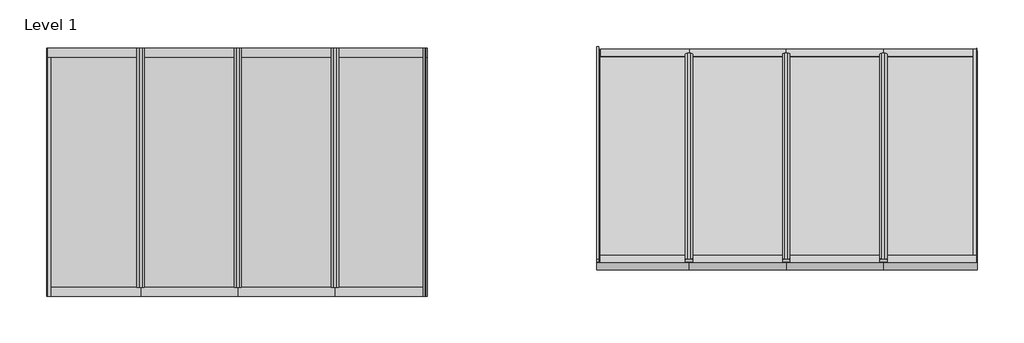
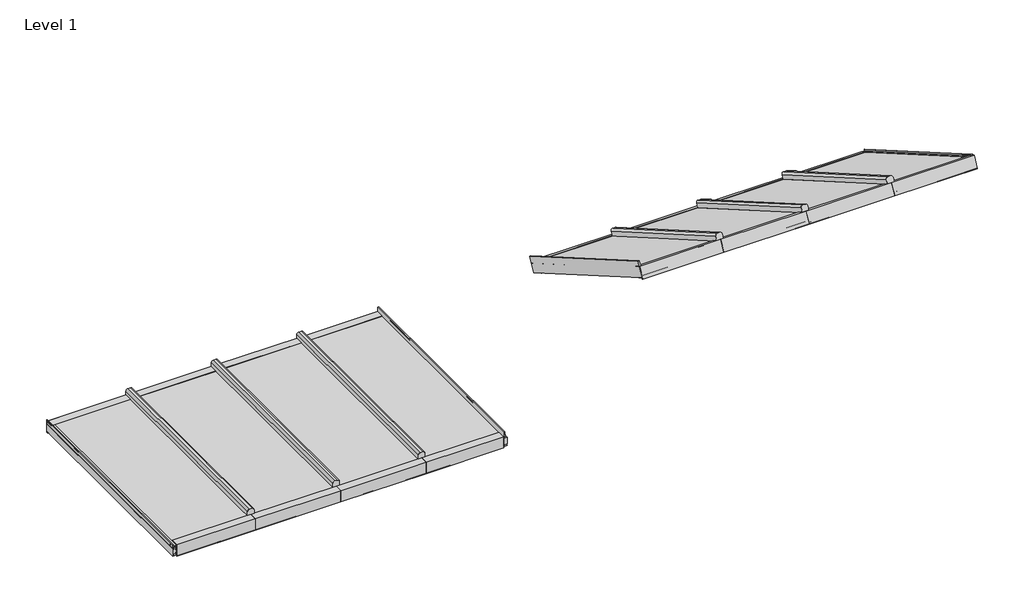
# One storey: 26 members, 8 plates.
"""IFC4 building model written with IfcOpenShell, lengths in millimetres."""

from ifc_helpers import new_model, si_unit, origin, place, context, project, spatial, transform, mapped, element, save
from components import rectangular_mullion_2bbd7e5c, rectangular_mullion_358f1fe0, rectangular_mullion_b9b8ca7e, rectangular_mullion_ce052a9a, rectangular_mullion_2972fc2d, rectangular_mullion_230216f2, rectangular_mullion_b2fdbea4, rectangular_mullion_9941ef16, rectangular_mullion_ced645ad, rectangular_mullion_c4324c7f, rectangular_mullion_f2670d49, rectangular_mullion_6f763872, rectangular_mullion_e9ba2ae8, rectangular_mullion_2c3513e9, plate_3ec01e9a, plate_dcd34a48, plate_85ba1ede

model = new_model("IFC4")

# Units and contexts
model_context = context("Model", 3, world=origin())
ifc_project = project(units=[si_unit("LENGTHUNIT", "METRE", prefix="MILLI")], contexts=[model_context])

# Site, building, storey
site = spatial("IfcSite", under=ifc_project)
building = spatial("IfcBuilding", under=site)
storey = spatial("IfcBuildingStorey", under=building, Name="Level 1", Elevation=4000.0)

# Members
placement = place(None, origin())
rectangular_mullion_shape = rectangular_mullion_2bbd7e5c(model_context)
element("IfcMember", 1, ObjectType="Rectangular Mullion : Danpal Top Mullion", at=placement, inside=storey, context=model_context, shape_type="MappedRepresentation", body=[
    mapped(rectangular_mullion_shape, transform((-8149.2365722, 1451.8561724, 4000.0), x_axis=(0.0, -1.0, 0.0), y_axis=(0.0, 0.0, -1.0), z_axis=(1.0, 0.0, 0.0))),
])
rectangular_mullion_2_shape = rectangular_mullion_358f1fe0(model_context)
element("IfcMember", 2, ObjectType="Rectangular Mullion : Danpal Top Mullion", at=placement, inside=storey, context=model_context, shape_type="MappedRepresentation", body=[
    mapped(rectangular_mullion_2_shape, transform((-7549.2365722, 1451.8561724, 4000.0), x_axis=(0.0, -1.0, 0.0), y_axis=(0.0, 0.0, -1.0), z_axis=(1.0, 0.0, 0.0))),
])
element("IfcMember", 3, ObjectType="Rectangular Mullion : Danpal Top Mullion", at=placement, inside=storey, context=model_context, shape_type="MappedRepresentation", body=[
    mapped(rectangular_mullion_2_shape, transform((-6949.2365722, 1451.8561724, 4000.0), x_axis=(0.0, -1.0, 0.0), y_axis=(0.0, 0.0, -1.0), z_axis=(1.0, 0.0, 0.0))),
])
rectangular_mullion_3_shape = rectangular_mullion_b9b8ca7e(model_context)
element("IfcMember", 4, ObjectType="Rectangular Mullion : Danpal Middle Mullion", at=placement, inside=storey, context=model_context, shape_type="MappedRepresentation", body=[
    mapped(rectangular_mullion_3_shape, transform((-8149.2365722, 2985.1834882, 4000.0), x_axis=(1.0, 0.0, 0.0), y_axis=(0.0, 0.0, -1.0), z_axis=(0.0, 1.0, 0.0))),
])
element("IfcMember", 5, ObjectType="Rectangular Mullion : Danpal Middle Mullion", at=placement, inside=storey, context=model_context, shape_type="MappedRepresentation", body=[
    mapped(rectangular_mullion_3_shape, transform((-7549.2365722, 2985.1834882, 4000.0), x_axis=(1.0, 0.0, 0.0), y_axis=(0.0, 0.0, -1.0), z_axis=(0.0, 1.0, 0.0))),
])
element("IfcMember", 6, ObjectType="Rectangular Mullion : Danpal Middle Mullion", at=placement, inside=storey, context=model_context, shape_type="MappedRepresentation", body=[
    mapped(rectangular_mullion_3_shape, transform((-6949.2365722, 2985.1834882, 4000.0), x_axis=(1.0, 0.0, 0.0), y_axis=(0.0, 0.0, -1.0), z_axis=(0.0, 1.0, 0.0))),
])
rectangular_mullion_4_shape = rectangular_mullion_ce052a9a(model_context)
element("IfcMember", 7, ObjectType="Rectangular Mullion : Danpal Bottom Mullion", at=placement, inside=storey, context=model_context, shape_type="MappedRepresentation", body=[
    mapped(rectangular_mullion_4_shape, transform((-8730.2619045, 2985.4561724, 4000.0), x_axis=(0.0, 1.0, 0.0), y_axis=(0.0, 0.0, -1.0), z_axis=(-1.0, 0.0, 0.0))),
])
element("IfcMember", 8, ObjectType="Rectangular Mullion : Danpal Bottom Mullion", at=placement, inside=storey, context=model_context, shape_type="MappedRepresentation", body=[
    mapped(rectangular_mullion_4_shape, transform((-2980.2619045, 1661.8561724, 4764.1808163), x_axis=(0.0, -0.8660254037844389, 0.4999999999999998), y_axis=(0.0, -0.4999999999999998, -0.8660254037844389), z_axis=(1.0, 0.0, 0.0))),
])
rectangular_mullion_5_shape = rectangular_mullion_2972fc2d(model_context)
element("IfcMember", 9, ObjectType="Rectangular Mullion : Danpal Rigth Mullion", at=placement, inside=storey, context=model_context, shape_type="MappedRepresentation", body=[
    mapped(rectangular_mullion_5_shape, transform((-8730.2619045, 1451.8561724, 4000.0), x_axis=(-1.0, 0.0, 0.0), y_axis=(0.0, 0.0, -1.0), z_axis=(0.0, -1.0, 0.0))),
])
element("IfcMember", 10, ObjectType="Rectangular Mullion : Danpal Bottom Mullion", at=placement, inside=storey, context=model_context, shape_type="MappedRepresentation", body=[
    mapped(rectangular_mullion_2_shape, transform((-8149.2365722, 2985.4561724, 4000.0), x_axis=(0.0, 1.0, 0.0), y_axis=(0.0, 0.0, -1.0), z_axis=(-1.0, 0.0, 0.0))),
])
element("IfcMember", 11, ObjectType="Rectangular Mullion : Danpal Bottom Mullion", at=placement, inside=storey, context=model_context, shape_type="MappedRepresentation", body=[
    mapped(rectangular_mullion_2_shape, transform((-7549.2365722, 2985.4561724, 4000.0), x_axis=(0.0, 1.0, 0.0), y_axis=(0.0, 0.0, -1.0), z_axis=(-1.0, 0.0, 0.0))),
])
element("IfcMember", 12, ObjectType="Rectangular Mullion : Danpal Bottom Mullion", at=placement, inside=storey, context=model_context, shape_type="MappedRepresentation", body=[
    mapped(rectangular_mullion_2_shape, transform((-3561.2872368, 1661.8561724, 4764.1808163), x_axis=(0.0, -0.8660254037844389, 0.4999999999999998), y_axis=(0.0, -0.4999999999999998, -0.8660254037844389), z_axis=(1.0, 0.0, 0.0))),
])
element("IfcMember", 13, ObjectType="Rectangular Mullion : Danpal Bottom Mullion", at=placement, inside=storey, context=model_context, shape_type="MappedRepresentation", body=[
    mapped(rectangular_mullion_2_shape, transform((-4161.2872368, 1661.8561724, 4764.1808163), x_axis=(0.0, -0.8660254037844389, 0.4999999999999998), y_axis=(0.0, -0.4999999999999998, -0.8660254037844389), z_axis=(1.0, 0.0, 0.0))),
])
rectangular_mullion_6_shape = rectangular_mullion_230216f2(model_context)
element("IfcMember", 14, ObjectType="Rectangular Mullion : Danpal Bottom Mullion", at=placement, inside=storey, context=model_context, shape_type="MappedRepresentation", body=[
    mapped(rectangular_mullion_6_shape, transform((-6949.2365722, 2985.4561724, 4000.0), x_axis=(0.0, 1.0, 0.0), y_axis=(0.0, 0.0, -1.0), z_axis=(-1.0, 0.0, 0.0))),
])
element("IfcMember", 15, ObjectType="Rectangular Mullion : Danpal Bottom Mullion", at=placement, inside=storey, context=model_context, shape_type="MappedRepresentation", body=[
    mapped(rectangular_mullion_6_shape, transform((-4761.2872368, 1661.8561724, 4764.1808163), x_axis=(0.0, -0.8660254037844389, 0.4999999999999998), y_axis=(0.0, -0.4999999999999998, -0.8660254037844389), z_axis=(1.0, 0.0, 0.0))),
])
rectangular_mullion_7_shape = rectangular_mullion_b2fdbea4(model_context)
element("IfcMember", 16, ObjectType="Rectangular Mullion : Danpal Left Mullion", at=placement, inside=storey, context=model_context, shape_type="MappedRepresentation", body=[
    mapped(rectangular_mullion_7_shape, transform((-6380.2619045, 2985.1834882, 4000.0), x_axis=(1.0, 0.0, 0.0), y_axis=(0.0, 0.0, -1.0), z_axis=(0.0, 1.0, 0.0))),
])
rectangular_mullion_8_shape = rectangular_mullion_9941ef16(model_context)
element("IfcMember", 17, ObjectType="Rectangular Mullion : Danpal Top Mullion", at=placement, inside=storey, context=model_context, shape_type="MappedRepresentation", body=[
    mapped(rectangular_mullion_8_shape, transform((-6404.2857453, 1451.8561724, 4000.0), x_axis=(0.0, -1.0, 0.0), y_axis=(0.0, 0.0, -1.0), z_axis=(1.0, 0.0, 0.0))),
])
rectangular_mullion_9_shape = rectangular_mullion_ced645ad(model_context)
element("IfcMember", 18, ObjectType="Rectangular Mullion : Danpal Top Mullion", at=placement, inside=storey, context=model_context, shape_type="MappedRepresentation", body=[
    mapped(rectangular_mullion_9_shape, transform((-5306.2380638, 2985.4561724, 4000.0), x_axis=(0.0, 0.8660254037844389, -0.4999999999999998), y_axis=(0.0, -0.4999999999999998, -0.8660254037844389), z_axis=(-1.0, 0.0, 0.0))),
])
rectangular_mullion_10_shape = rectangular_mullion_c4324c7f(model_context)
element("IfcMember", 19, ObjectType="Rectangular Mullion : Danpal Top Mullion", at=placement, inside=storey, context=model_context, shape_type="MappedRepresentation", body=[
    mapped(rectangular_mullion_10_shape, transform((-3561.2872368, 2985.4561724, 4000.0), x_axis=(0.0, 0.8660254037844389, -0.4999999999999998), y_axis=(0.0, -0.4999999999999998, -0.8660254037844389), z_axis=(-1.0, 0.0, 0.0))),
])
rectangular_mullion_11_shape = rectangular_mullion_f2670d49(model_context)
element("IfcMember", 20, ObjectType="Rectangular Mullion : Danpal Top Mullion", at=placement, inside=storey, context=model_context, shape_type="MappedRepresentation", body=[
    mapped(rectangular_mullion_11_shape, transform((-4161.2872368, 2985.4561724, 4000.0), x_axis=(0.0, 0.8660254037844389, -0.4999999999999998), y_axis=(0.0, -0.4999999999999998, -0.8660254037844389), z_axis=(-1.0, 0.0, 0.0))),
])
element("IfcMember", 21, ObjectType="Rectangular Mullion : Danpal Top Mullion", at=placement, inside=storey, context=model_context, shape_type="MappedRepresentation", body=[
    mapped(rectangular_mullion_11_shape, transform((-4761.2872368, 2985.4561724, 4000.0), x_axis=(0.0, 0.8660254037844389, -0.4999999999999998), y_axis=(0.0, -0.4999999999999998, -0.8660254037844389), z_axis=(-1.0, 0.0, 0.0))),
])
rectangular_mullion_12_shape = rectangular_mullion_6f763872(model_context)
element("IfcMember", 22, ObjectType="Rectangular Mullion : Danpal Middle Mullion", at=placement, inside=storey, context=model_context, shape_type="MappedRepresentation", body=[
    mapped(rectangular_mullion_12_shape, transform((-3561.2872368, 1667.7748506, 4760.7636658), x_axis=(-1.0, 0.0, 0.0), y_axis=(0.0, -0.4999999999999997, -0.8660254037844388), z_axis=(0.0, -0.8660254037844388, 0.4999999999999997))),
])
element("IfcMember", 23, ObjectType="Rectangular Mullion : Danpal Middle Mullion", at=placement, inside=storey, context=model_context, shape_type="MappedRepresentation", body=[
    mapped(rectangular_mullion_12_shape, transform((-4161.2872368, 1667.7748506, 4760.7636658), x_axis=(-1.0, 0.0, 0.0), y_axis=(0.0, -0.4999999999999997, -0.8660254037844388), z_axis=(0.0, -0.8660254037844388, 0.4999999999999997))),
])
element("IfcMember", 24, ObjectType="Rectangular Mullion : Danpal Middle Mullion", at=placement, inside=storey, context=model_context, shape_type="MappedRepresentation", body=[
    mapped(rectangular_mullion_12_shape, transform((-4761.2872368, 1667.7748506, 4760.7636658), x_axis=(-1.0, 0.0, 0.0), y_axis=(0.0, -0.4999999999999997, -0.8660254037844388), z_axis=(0.0, -0.8660254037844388, 0.4999999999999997))),
])
rectangular_mullion_13_shape = rectangular_mullion_e9ba2ae8(model_context)
element("IfcMember", 25, ObjectType="Rectangular Mullion : Danpal Rigth Mullion", at=placement, inside=storey, context=model_context, shape_type="MappedRepresentation", body=[
    mapped(rectangular_mullion_13_shape, transform((-2980.2619045, 2985.4561724, 4000.0), x_axis=(1.0, 0.0, 0.0), y_axis=(0.0, -0.49999999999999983, -0.8660254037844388), z_axis=(0.0, 0.8660254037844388, -0.49999999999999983))),
])
rectangular_mullion_14_shape = rectangular_mullion_2c3513e9(model_context)
element("IfcMember", 26, ObjectType="Rectangular Mullion : Danpal Left Mullion", at=placement, inside=storey, context=model_context, shape_type="MappedRepresentation", body=[
    mapped(rectangular_mullion_14_shape, transform((-5330.2619045, 1667.7748506, 4760.7636658), x_axis=(-1.0, 0.0, 0.0), y_axis=(0.0, -0.4999999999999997, -0.8660254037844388), z_axis=(0.0, -0.8660254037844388, 0.4999999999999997))),
])

# Plates
plate_shape = plate_3ec01e9a(model_context)
element("IfcPlate", 27, ObjectType="Danpal Glass : Danpal Glass", at=placement, inside=storey, context=model_context, shape_type="MappedRepresentation", body=[
    mapped(plate_shape, transform((-8449.2365724, 1485.1834882, 4000.0), x_axis=(1.0, 0.0, 0.0), y_axis=(0.0, 0.0, -1.0), z_axis=(0.0, 1.0, 0.0))),
])
element("IfcPlate", 28, ObjectType="Danpal Glass : Danpal Glass", at=placement, inside=storey, context=model_context, shape_type="MappedRepresentation", body=[
    mapped(plate_shape, transform((-7849.2365722, 1485.1834882, 4000.0), x_axis=(1.0, 0.0, 0.0), y_axis=(0.0, 0.0, -1.0), z_axis=(0.0, 1.0, 0.0))),
])
element("IfcPlate", 29, ObjectType="Danpal Glass : Danpal Glass", at=placement, inside=storey, context=model_context, shape_type="MappedRepresentation", body=[
    mapped(plate_shape, transform((-7249.2365722, 1485.1834882, 4000.0), x_axis=(1.0, 0.0, 0.0), y_axis=(0.0, 0.0, -1.0), z_axis=(0.0, 1.0, 0.0))),
])
element("IfcPlate", 30, ObjectType="Danpal Glass : Danpal Glass", at=placement, inside=storey, context=model_context, shape_type="MappedRepresentation", body=[
    mapped(plate_shape, transform((-3261.2872367, 2966.8129563, 4010.7636658), x_axis=(-1.0, 0.0, 0.0), y_axis=(0.0, -0.4999999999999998, -0.8660254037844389), z_axis=(0.0, -0.8660254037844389, 0.4999999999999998))),
])
element("IfcPlate", 31, ObjectType="Danpal Glass : Danpal Glass", at=placement, inside=storey, context=model_context, shape_type="MappedRepresentation", body=[
    mapped(plate_shape, transform((-3861.2872368, 2966.8129563, 4010.7636658), x_axis=(-1.0, 0.0, 0.0), y_axis=(0.0, -0.4999999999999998, -0.8660254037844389), z_axis=(0.0, -0.8660254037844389, 0.4999999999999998))),
])
element("IfcPlate", 32, ObjectType="Danpal Glass : Danpal Glass", at=placement, inside=storey, context=model_context, shape_type="MappedRepresentation", body=[
    mapped(plate_shape, transform((-4461.2872368, 2966.8129563, 4010.7636658), x_axis=(-1.0, 0.0, 0.0), y_axis=(0.0, -0.4999999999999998, -0.8660254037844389), z_axis=(0.0, -0.8660254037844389, 0.4999999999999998))),
])
plate_2_shape = plate_dcd34a48(model_context)
element("IfcPlate", 33, ObjectType="Danpal Glass : Danpal Glass", at=placement, inside=storey, context=model_context, shape_type="MappedRepresentation", body=[
    mapped(plate_2_shape, transform((-6665.2611588, 1485.1834882, 4000.0), x_axis=(1.0, 0.0, 0.0), y_axis=(0.0, 0.0, -1.0), z_axis=(0.0, 1.0, 0.0))),
])
plate_3_shape = plate_85ba1ede(model_context)
element("IfcPlate", 34, ObjectType="Danpal Glass : Danpal Glass", at=placement, inside=storey, context=model_context, shape_type="MappedRepresentation", body=[
    mapped(plate_3_shape, transform((-5051.3495707, 2966.8129563, 4010.7636658), x_axis=(-1.0, 0.0, 0.0), y_axis=(0.0, -0.4999999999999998, -0.8660254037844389), z_axis=(0.0, -0.8660254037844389, 0.4999999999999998))),
])

save(model, "model.ifc")
